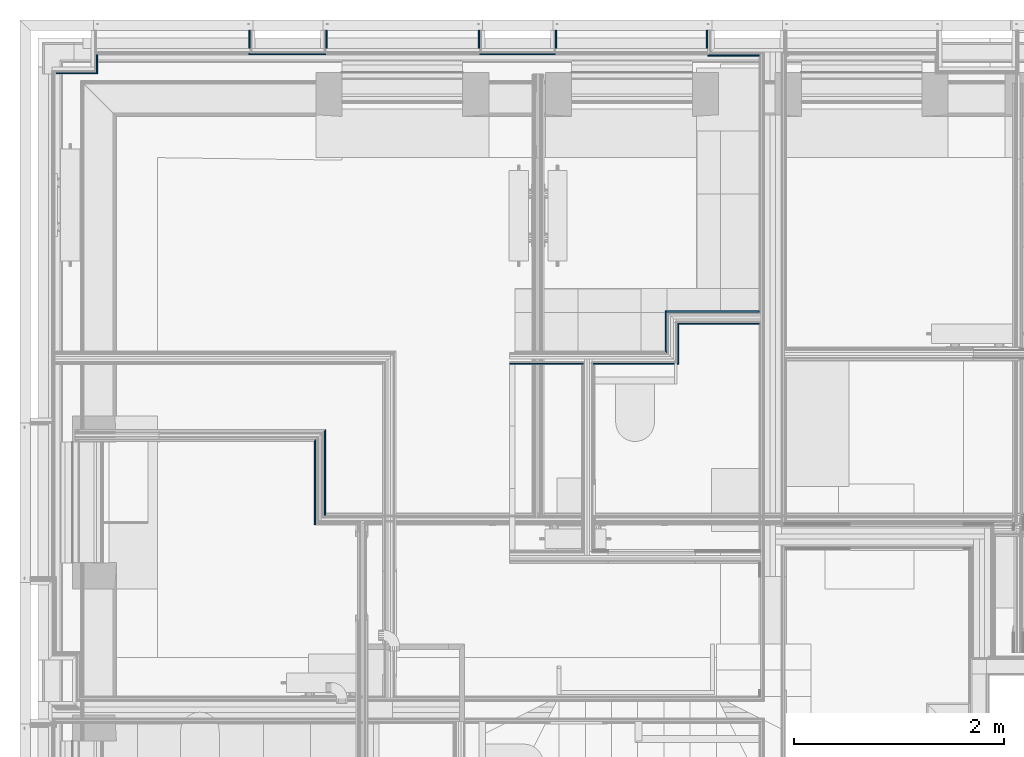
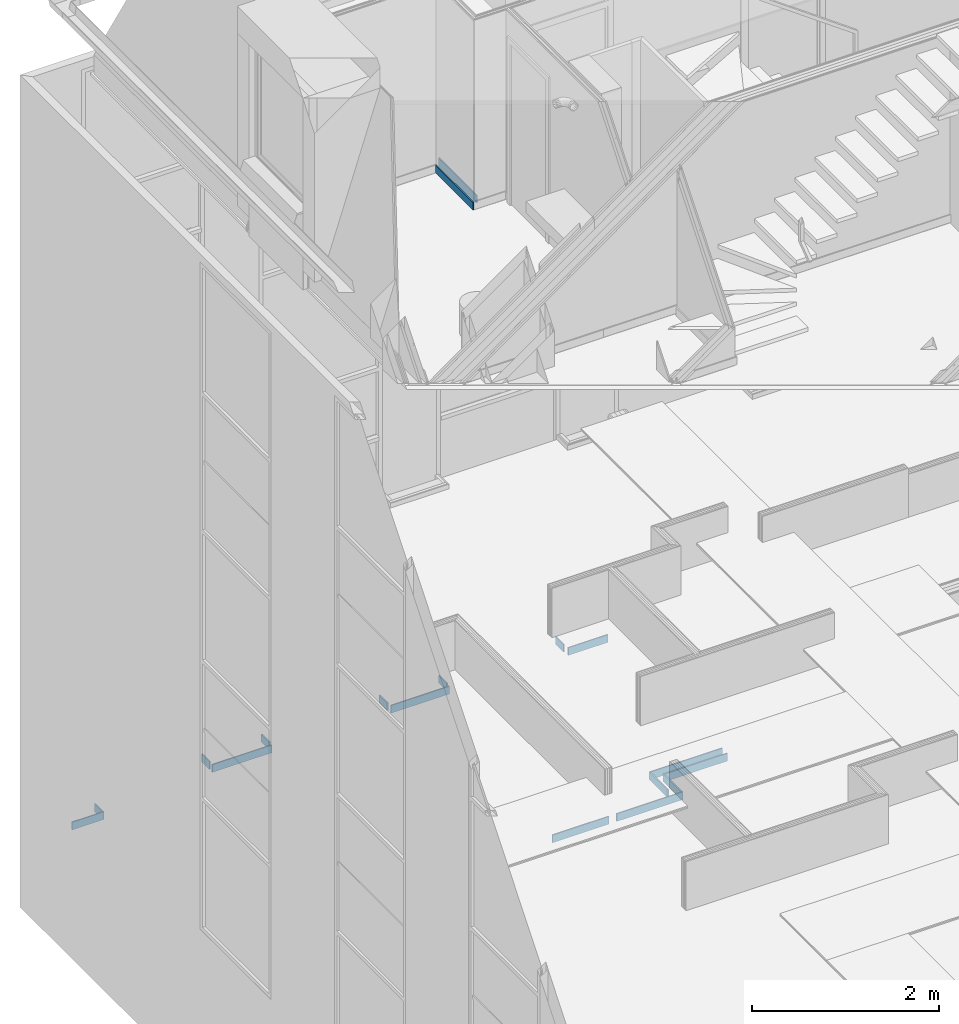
# One storey, part 58 of 169: 18 building element parts, 14 elements without a shape of their own.
"""IFC2X3 building model written with IfcOpenShell, lengths in metres."""

from ifc_helpers import new_model, entity, si_unit, converted_unit, derived_unit, money_unit, direction, frame, frame_2d, origin_with_axes, place, context, subcontext, project, spatial, polyline, rectangle, outline, extrude, material, type_object, element, aggregate, save


model = new_model("IFC2X3")

# Units and contexts
model_context = context("Model", 3, precision=1e-05, world=origin_with_axes(), true_north=direction((0.0, 1.0)))
body_context = subcontext(model_context, "Body", "Model", "MODEL_VIEW", scale=1.0)
ifc_project = project(units=[si_unit("LENGTHUNIT", "METRE"), si_unit("AREAUNIT", "SQUARE_METRE"), si_unit("VOLUMEUNIT", "CUBIC_METRE"), si_unit("ABSORBEDDOSEUNIT", "GRAY"), si_unit("AMOUNTOFSUBSTANCEUNIT", "MOLE"), si_unit("DOSEEQUIVALENTUNIT", "SIEVERT"), si_unit("ELECTRICCAPACITANCEUNIT", "FARAD"), si_unit("ELECTRICCHARGEUNIT", "COULOMB"), si_unit("ELECTRICCONDUCTANCEUNIT", "SIEMENS"), si_unit("ELECTRICCURRENTUNIT", "AMPERE"), si_unit("ELECTRICRESISTANCEUNIT", "OHM"), si_unit("ELECTRICVOLTAGEUNIT", "VOLT"), si_unit("ENERGYUNIT", "JOULE"), si_unit("FORCEUNIT", "NEWTON"), si_unit("FREQUENCYUNIT", "HERTZ"), si_unit("ILLUMINANCEUNIT", "LUX"), si_unit("INDUCTANCEUNIT", "HENRY"), si_unit("LUMINOUSFLUXUNIT", "LUMEN"), si_unit("LUMINOUSINTENSITYUNIT", "CANDELA"), si_unit("MAGNETICFLUXDENSITYUNIT", "TESLA"), si_unit("MAGNETICFLUXUNIT", "WEBER"), si_unit("MASSUNIT", "GRAM"), converted_unit("PLANEANGLEUNIT", "degree", entity("IfcReal", 0.0174532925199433), si_unit("PLANEANGLEUNIT", "RADIAN"), dimensions=[0, 0, 0, 0, 0, 0, 0]), si_unit("POWERUNIT", "WATT"), si_unit("PRESSUREUNIT", "PASCAL"), si_unit("RADIOACTIVITYUNIT", "BECQUEREL"), si_unit("SOLIDANGLEUNIT", "STERADIAN"), si_unit("THERMODYNAMICTEMPERATUREUNIT", "KELVIN"), si_unit("TIMEUNIT", "SECOND"), derived_unit("ACCELERATIONUNIT", [(si_unit("LENGTHUNIT", "METRE"), 1), (si_unit("TIMEUNIT", "SECOND"), -2)]), derived_unit("ANGULARVELOCITYUNIT", [(converted_unit("PLANEANGLEUNIT", "degree", entity("IfcReal", 0.0174532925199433), si_unit("PLANEANGLEUNIT", "RADIAN"), dimensions=[0, 0, 0, 0, 0, 0, 0]), 1), (si_unit("TIMEUNIT", "SECOND"), -1)]), derived_unit("CURVATUREUNIT", [(converted_unit("PLANEANGLEUNIT", "degree", entity("IfcReal", 0.0174532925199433), si_unit("PLANEANGLEUNIT", "RADIAN"), dimensions=[0, 0, 0, 0, 0, 0, 0]), 1), (si_unit("LENGTHUNIT", "METRE"), -1)]), derived_unit("DYNAMICVISCOSITYUNIT", [(si_unit("PRESSUREUNIT", "PASCAL"), 1), (si_unit("TIMEUNIT", "SECOND"), 1)]), derived_unit("HEATFLUXDENSITYUNIT", [(si_unit("POWERUNIT", "WATT"), 1), (si_unit("LENGTHUNIT", "METRE"), -2)]), derived_unit("HEATINGVALUEUNIT", [(si_unit("ENERGYUNIT", "JOULE"), 1), (si_unit("MASSUNIT", "GRAM"), -1)]), derived_unit("INTEGERCOUNTRATEUNIT", [(si_unit("TIMEUNIT", "SECOND"), -1)]), derived_unit("IONCONCENTRATIONUNIT", [(si_unit("MASSUNIT", "GRAM"), 1), (si_unit("VOLUMEUNIT", "CUBIC_METRE"), -1)]), derived_unit("ISOTHERMALMOISTURECAPACITYUNIT", [(si_unit("VOLUMEUNIT", "CUBIC_METRE"), 1), (si_unit("MASSUNIT", "GRAM"), -1)]), derived_unit("KINEMATICVISCOSITYUNIT", [(si_unit("AREAUNIT", "SQUARE_METRE"), 1), (si_unit("TIMEUNIT", "SECOND"), -1)]), derived_unit("LINEARFORCEUNIT", [(si_unit("FORCEUNIT", "NEWTON"), 1), (si_unit("LENGTHUNIT", "METRE"), -1)]), derived_unit("LINEARMOMENTUNIT", [(si_unit("FORCEUNIT", "NEWTON"), 1), (si_unit("LENGTHUNIT", "METRE"), -1)]), derived_unit("LINEARSTIFFNESSUNIT", [(si_unit("FORCEUNIT", "NEWTON"), 1), (si_unit("LENGTHUNIT", "METRE"), -1)]), derived_unit("LINEARVELOCITYUNIT", [(si_unit("LENGTHUNIT", "METRE"), 1), (si_unit("TIMEUNIT", "SECOND"), -1)]), derived_unit("LUMINOUSINTENSITYDISTRIBUTIONUNIT", [(si_unit("LUMINOUSINTENSITYUNIT", "CANDELA"), 1), (si_unit("LUMINOUSFLUXUNIT", "LUMEN"), -1)]), derived_unit("MASSDENSITYUNIT", [(si_unit("MASSUNIT", "GRAM"), 1), (si_unit("VOLUMEUNIT", "CUBIC_METRE"), -1)]), derived_unit("MASSFLOWRATEUNIT", [(si_unit("MASSUNIT", "GRAM"), 1), (si_unit("TIMEUNIT", "SECOND"), -1)]), derived_unit("MASSPERLENGTHUNIT", [(si_unit("MASSUNIT", "GRAM"), 1), (si_unit("LENGTHUNIT", "METRE"), -1)]), derived_unit("MODULUSOFELASTICITYUNIT", [(si_unit("FORCEUNIT", "NEWTON"), 1), (si_unit("AREAUNIT", "SQUARE_METRE"), -1)]), derived_unit("MODULUSOFLINEARSUBGRADEREACTIONUNIT", [(si_unit("FORCEUNIT", "NEWTON"), 1), (si_unit("LENGTHUNIT", "METRE"), -2)]), derived_unit("MODULUSOFROTATIONALSUBGRADEREACTIONUNIT", [(si_unit("FORCEUNIT", "NEWTON"), 1), (si_unit("LENGTHUNIT", "METRE"), 1)]), derived_unit("MODULUSOFSUBGRADEREACTIONUNIT", [(si_unit("FORCEUNIT", "NEWTON"), 1), (si_unit("VOLUMEUNIT", "CUBIC_METRE"), -1)]), derived_unit("MOISTUREDIFFUSIVITYUNIT", [(si_unit("VOLUMEUNIT", "CUBIC_METRE"), 1), (si_unit("TIMEUNIT", "SECOND"), -1)]), derived_unit("MOLECULARWEIGHTUNIT", [(si_unit("MASSUNIT", "GRAM"), 1), (si_unit("AMOUNTOFSUBSTANCEUNIT", "MOLE"), -1)]), derived_unit("PLANARFORCEUNIT", [(si_unit("FORCEUNIT", "NEWTON"), 1), (si_unit("LENGTHUNIT", "METRE"), -2)]), derived_unit("ROTATIONALFREQUENCYUNIT", [(si_unit("TIMEUNIT", "SECOND"), -1)]), derived_unit("ROTATIONALMASSUNIT", [(si_unit("MASSUNIT", "GRAM"), 1), (si_unit("LENGTHUNIT", "METRE"), 2)]), derived_unit("ROTATIONALSTIFFNESSUNIT", [(si_unit("FORCEUNIT", "NEWTON"), 1), (si_unit("LENGTHUNIT", "METRE"), 1), (converted_unit("PLANEANGLEUNIT", "degree", entity("IfcReal", 0.0174532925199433), si_unit("PLANEANGLEUNIT", "RADIAN"), dimensions=[0, 0, 0, 0, 0, 0, 0]), -1)]), derived_unit("SECTIONAREAINTEGRALUNIT", [(si_unit("LENGTHUNIT", "METRE"), 5)]), derived_unit("SECTIONMODULUSUNIT", [(si_unit("LENGTHUNIT", "METRE"), 3)]), derived_unit("SHEARMODULUSUNIT", [(si_unit("FORCEUNIT", "NEWTON"), 1), (si_unit("AREAUNIT", "SQUARE_METRE"), -1)]), derived_unit("SOUNDPOWERUNIT", [(si_unit("ENERGYUNIT", "JOULE"), 1), (si_unit("TIMEUNIT", "SECOND"), -1)]), derived_unit("SPECIFICHEATCAPACITYUNIT", [(si_unit("FORCEUNIT", "NEWTON"), 1), (si_unit("MASSUNIT", "GRAM"), -1), (si_unit("THERMODYNAMICTEMPERATUREUNIT", "KELVIN"), -1)]), derived_unit("TEMPERATUREGRADIENTUNIT", [(si_unit("THERMODYNAMICTEMPERATUREUNIT", "KELVIN"), 1), (si_unit("LENGTHUNIT", "METRE"), -1)]), derived_unit("THERMALADMITTANCEUNIT", [(si_unit("POWERUNIT", "WATT"), 1), (si_unit("AREAUNIT", "SQUARE_METRE"), -1), (si_unit("THERMODYNAMICTEMPERATUREUNIT", "KELVIN"), -1)]), derived_unit("THERMALCONDUCTANCEUNIT", [(si_unit("POWERUNIT", "WATT"), 1), (si_unit("LENGTHUNIT", "METRE"), -1), (si_unit("THERMODYNAMICTEMPERATUREUNIT", "KELVIN"), -1)]), derived_unit("THERMALEXPANSIONCOEFFICIENTUNIT", [(si_unit("THERMODYNAMICTEMPERATUREUNIT", "KELVIN"), -1)]), derived_unit("THERMALRESISTANCEUNIT", [(si_unit("AREAUNIT", "SQUARE_METRE"), 1), (si_unit("POWERUNIT", "WATT"), -1)]), derived_unit("THERMALTRANSMITTANCEUNIT", [(si_unit("POWERUNIT", "WATT"), 1), (si_unit("AREAUNIT", "SQUARE_METRE"), -1), (si_unit("THERMODYNAMICTEMPERATUREUNIT", "KELVIN"), -1)]), derived_unit("TORQUEUNIT", [(si_unit("FORCEUNIT", "NEWTON"), 1), (si_unit("LENGTHUNIT", "METRE"), 1)]), derived_unit("VAPORPERMEABILITYUNIT", [(si_unit("MASSUNIT", "GRAM"), 1), (si_unit("TIMEUNIT", "SECOND"), -1)]), derived_unit("VOLUMETRICFLOWRATEUNIT", [(si_unit("VOLUMEUNIT", "CUBIC_METRE"), 1), (si_unit("TIMEUNIT", "SECOND"), -1)]), derived_unit("WARPINGCONSTANTUNIT", [(si_unit("LENGTHUNIT", "METRE"), 6)]), derived_unit("WARPINGMOMENTUNIT", [(si_unit("FORCEUNIT", "NEWTON"), 1), (si_unit("LENGTHUNIT", "METRE"), 2)]), money_unit("GBP")], contexts=[model_context])

# Site, building, storey
site_placement = place(None, origin_with_axes())
site = spatial("IfcSite", under=ifc_project, at=site_placement, Name="Site", CompositionType="ELEMENT")
building_placement = place(site_placement, origin_with_axes())
building = spatial("IfcBuilding", under=site, at=building_placement, Name="Building01", CompositionType="ELEMENT")
storey_placement = place(building_placement, frame((0.0, 0.0, 5.15), z_axis=(0.0, 0.0, 1.0), x_axis=(1.0, 0.0, 0.0)))
storey = spatial("IfcBuildingStorey", under=building, at=storey_placement, Name="1F", CompositionType="ELEMENT", Elevation=5.15)

# Wall, building element parts
wall_type_1 = type_object("IfcWallType", Name="SHE_A-Walls_Type05a_Partition_95mm_tall", PredefinedType="NOTDEFINED")
wall_1_placement = place(storey_placement, frame((6.229669, 11.66567, 0.0), z_axis=(0.0, 0.0, 1.0), x_axis=(0.0, 1.0, 0.0)))
wall_1 = element("IfcWall", 1, at=wall_1_placement, inside=storey, type_object=wall_type_1, Name="5A", ObjectType="SHE_A-Walls_Type05a_Partition_95mm_tall")
ifc_material = material(Name="A_BSUK_Walls_Timber")
placement_1 = place(wall_1_placement, origin_with_axes())
building_element_part_1 = element("IfcBuildingElementPart", 2, at=placement_1, material=ifc_material, Name="1", context=body_context, shape_type="SweptSolid", body=[
    extrude(outline(polyline([(0.35, -0.035), (-0.035, -0.035), (-0.05, -0.05), (0.335, -0.05), (0.35, -0.035)])), frame((0.0, 0.0, 0.015), z_axis=(0.0, 0.0, 1.0), x_axis=(1.0, 0.0, 0.0)), (0.0, 0.0, 1.0), 0.1),
])
building_element_part_2 = element("IfcBuildingElementPart", 3, at=placement_1, material=ifc_material, Name="7", context=body_context, shape_type="SweptSolid", body=[
    extrude(outline(polyline([(0.46, 0.075), (0.075, 0.075), (0.06, 0.06), (0.445, 0.06), (0.46, 0.075)])), frame((0.0, 0.0, 0.015), z_axis=(0.0, 0.0, 1.0), x_axis=(1.0, 0.0, 0.0)), (0.0, 0.0, 1.0), 0.1),
])
aggregate(wall_1, [building_element_part_1, building_element_part_2])

wall_2_placement = place(storey_placement, frame((6.229669, 12.05067, 0.0), z_axis=(0.0, 0.0, 1.0), x_axis=(1.0, 0.0, 0.0)))
wall_2 = element("IfcWall", 4, at=wall_2_placement, inside=storey, type_object=wall_type_1, Name="5A", ObjectType="SHE_A-Walls_Type05a_Partition_95mm_tall")
placement_2 = place(wall_2_placement, origin_with_axes())
building_element_part_3 = element("IfcBuildingElementPart", 5, at=placement_2, material=ifc_material, Name="1", context=body_context, shape_type="SweptSolid", body=[
    extrude(outline(polyline([(0.82, -0.035), (0.035, -0.035), (0.05, -0.05), (0.82, -0.05), (0.82, -0.035)])), frame((0.0, 0.0, 0.015), z_axis=(0.0, 0.0, 1.0), x_axis=(1.0, 0.0, 0.0)), (0.0, 0.0, 1.0), 0.1),
])
building_element_part_4 = element("IfcBuildingElementPart", 6, at=placement_2, material=ifc_material, Name="7", context=body_context, shape_type="SweptSolid", body=[
    extrude(outline(polyline([(0.82, 0.075), (-0.075, 0.075), (-0.06, 0.06), (0.82, 0.06), (0.82, 0.075)])), frame((0.0, 0.0, 0.015), z_axis=(0.0, 0.0, 1.0), x_axis=(1.0, 0.0, 0.0)), (0.0, 0.0, 1.0), 0.1),
])
aggregate(wall_2, [building_element_part_3, building_element_part_4])

wall_3_placement = place(storey_placement, frame((4.669669, 11.66567, 0.0), z_axis=(0.0, 0.0, 1.0), x_axis=(1.0, 0.0, 0.0)))
wall_3 = element("IfcWall", 7, at=wall_3_placement, inside=storey, type_object=wall_type_1, Name="5A", ObjectType="SHE_A-Walls_Type05a_Partition_95mm_tall")
placement_3 = place(wall_3_placement, origin_with_axes())
building_element_part_5 = element("IfcBuildingElementPart", 8, at=placement_3, material=ifc_material, Name="1", context=body_context, shape_type="SweptSolid", body=[
    extrude(rectangle(XDim=0.7, YDim=0.015, at=frame_2d((0.35, -0.0425), x_axis=(-1.0, 0.0))), frame((0.0, 0.0, 0.015), z_axis=(0.0, 0.0, 1.0), x_axis=(1.0, 0.0, 0.0)), (0.0, 0.0, 1.0), 0.1),
])
building_element_part_6 = element("IfcBuildingElementPart", 9, at=placement_3, material=ifc_material, Name="2", context=body_context, shape_type="SweptSolid", body=[
    extrude(outline(polyline([(1.595, -0.035), (0.795, -0.035), (0.795, -0.05), (1.61, -0.05), (1.595, -0.035)])), frame((0.0, 0.0, 0.015), z_axis=(0.0, 0.0, 1.0), x_axis=(1.0, 0.0, 0.0)), (0.0, 0.0, 1.0), 0.1),
])
aggregate(wall_3, [building_element_part_5, building_element_part_6])

# Wall, building element part
wall_type_2 = type_object("IfcWallType", Name="SHE_A-Walls_Type06f_ExternalWallInsulation_48+15mm", PredefinedType="NOTDEFINED")
wall_4_placement = place(storey_placement, frame((6.605, 14.612, 0.0), z_axis=(0.0, 0.0, 1.0), x_axis=(0.0, 1.0, 0.0)))
wall_4 = element("IfcWall", 10, at=wall_4_placement, inside=storey, type_object=wall_type_2, Name="6F", ObjectType="SHE_A-Walls_Type06f_ExternalWallInsulation_48+15mm")
building_element_part_7_placement = place(wall_4_placement, origin_with_axes())
building_element_part_7 = element("IfcBuildingElementPart", 11, at=building_element_part_7_placement, material=ifc_material, Name="4", context=body_context, shape_type="SweptSolid", body=[
    extrude(rectangle(XDim=0.168993, YDim=0.015, at=frame_2d((0.103503, 0.0525), x_axis=(1.0, 0.0))), frame((0.0, 0.0, 0.015), z_axis=(0.0, 0.0, 1.0), x_axis=(1.0, 0.0, 0.0)), (0.0, 0.0, 1.0), 0.1),
])
aggregate(wall_4, [building_element_part_7])

wall_5_placement = place(storey_placement, frame((7.283, 14.612, 0.0), z_axis=(0.0, 0.0, 1.0), x_axis=(-1.0, 0.0, 0.0)))
wall_5 = element("IfcWall", 12, at=wall_5_placement, inside=storey, type_object=wall_type_2, Name="6F", ObjectType="SHE_A-Walls_Type06f_ExternalWallInsulation_48+15mm")
building_element_part_8_placement = place(wall_5_placement, origin_with_axes())
building_element_part_8 = element("IfcBuildingElementPart", 13, at=building_element_part_8_placement, material=ifc_material, Name="7", context=body_context, shape_type="SweptSolid", body=[
    extrude(rectangle(XDim=0.015, YDim=0.489793, at=frame_2d((0.478228, 0.0525), x_axis=(0.0, -1.0))), frame((0.0, 0.0, 0.015), z_axis=(0.0, 0.0, 1.0), x_axis=(1.0, 0.0, 0.0)), (0.0, 0.0, 1.0), 0.1),
])
aggregate(wall_5, [building_element_part_8])

wall_type_3 = type_object("IfcWallType", Name="SHE_A-Walls_Type06d_ExternalWallInsulation_48mm", PredefinedType="NOTDEFINED")
wall_6_placement = place(storey_placement, frame((5.093, 14.63, 0.0), z_axis=(0.0, 0.0, 1.0), x_axis=(0.0, 1.0, 0.0)))
wall_6 = element("IfcWall", 14, at=wall_6_placement, inside=storey, type_object=wall_type_3, Name="6D", ObjectType="SHE_A-Walls_Type06d_ExternalWallInsulation_48mm")
building_element_part_9_placement = place(wall_6_placement, origin_with_axes())
building_element_part_9 = element("IfcBuildingElementPart", 15, at=building_element_part_9_placement, material=ifc_material, Name="1", context=body_context, shape_type="SweptSolid", body=[
    extrude(rectangle(XDim=0.17, YDim=0.015, at=frame_2d((0.085, -0.0195), x_axis=(1.0, 0.0))), frame((0.0, 0.0, 0.015), z_axis=(0.0, 0.0, 1.0), x_axis=(1.0, 0.0, 0.0)), (0.0, 0.0, 1.0), 0.1),
])
aggregate(wall_6, [building_element_part_9])

wall_7_placement = place(storey_placement, frame((5.093, 14.63, 0.0), z_axis=(0.0, 0.0, 1.0), x_axis=(-1.0, 0.0, 0.0)))
wall_7 = element("IfcWall", 16, at=wall_7_placement, inside=storey, type_object=wall_type_3, Name="6D", ObjectType="SHE_A-Walls_Type06d_ExternalWallInsulation_48mm")
building_element_part_10_placement = place(wall_7_placement, origin_with_axes())
building_element_part_10 = element("IfcBuildingElementPart", 17, at=building_element_part_10_placement, material=ifc_material, Name="3", context=body_context, shape_type="SweptSolid", body=[
    extrude(rectangle(XDim=0.72, YDim=0.015, at=frame_2d((0.348, 0.0555), x_axis=(1.0, 0.0))), frame((0.0, 0.0, 0.015), z_axis=(0.0, 0.0, 1.0), x_axis=(1.0, 0.0, 0.0)), (0.0, 0.0, 1.0), 0.1),
])
aggregate(wall_7, [building_element_part_10])

wall_8_placement = place(storey_placement, frame((4.397, 14.63, 0.0), z_axis=(0.0, 0.0, 1.0), x_axis=(0.0, 1.0, 0.0)))
wall_8 = element("IfcWall", 18, at=wall_8_placement, inside=storey, type_object=wall_type_3, Name="6D", ObjectType="SHE_A-Walls_Type06d_ExternalWallInsulation_48mm")
building_element_part_11_placement = place(wall_8_placement, origin_with_axes())
building_element_part_11 = element("IfcBuildingElementPart", 19, at=building_element_part_11_placement, material=ifc_material, Name="3", context=body_context, shape_type="SweptSolid", body=[
    extrude(rectangle(XDim=0.17, YDim=0.015, at=frame_2d((0.085, 0.0195), x_axis=(1.0, 0.0))), frame((0.0, 0.0, 0.015), z_axis=(0.0, 0.0, 1.0), x_axis=(1.0, 0.0, 0.0)), (0.0, 0.0, 1.0), 0.1),
])
aggregate(wall_8, [building_element_part_11])

wall_9_placement = place(storey_placement, frame((2.903, 14.63, 0.0), z_axis=(0.0, 0.0, 1.0), x_axis=(0.0, 1.0, 0.0)))
wall_9 = element("IfcWall", 20, at=wall_9_placement, inside=storey, type_object=wall_type_3, Name="6D", ObjectType="SHE_A-Walls_Type06d_ExternalWallInsulation_48mm")
building_element_part_12_placement = place(wall_9_placement, origin_with_axes())
building_element_part_12 = element("IfcBuildingElementPart", 21, at=building_element_part_12_placement, material=ifc_material, Name="1", context=body_context, shape_type="SweptSolid", body=[
    extrude(rectangle(XDim=0.17, YDim=0.015, at=frame_2d((0.085, -0.0195), x_axis=(1.0, 0.0))), frame((0.0, 0.0, 0.015), z_axis=(0.0, 0.0, 1.0), x_axis=(1.0, 0.0, 0.0)), (0.0, 0.0, 1.0), 0.1),
])
aggregate(wall_9, [building_element_part_12])

wall_10_placement = place(storey_placement, frame((2.903, 14.63, 0.0), z_axis=(0.0, 0.0, 1.0), x_axis=(-1.0, 0.0, 0.0)))
wall_10 = element("IfcWall", 22, at=wall_10_placement, inside=storey, type_object=wall_type_3, Name="6D", ObjectType="SHE_A-Walls_Type06d_ExternalWallInsulation_48mm")
building_element_part_13_placement = place(wall_10_placement, origin_with_axes())
building_element_part_13 = element("IfcBuildingElementPart", 23, at=building_element_part_13_placement, material=ifc_material, Name="3", context=body_context, shape_type="SweptSolid", body=[
    extrude(rectangle(XDim=0.735, YDim=0.015, at=frame_2d((0.3555, 0.0555), x_axis=(1.0, 0.0))), frame((0.0, 0.0, 0.015), z_axis=(0.0, 0.0, 1.0), x_axis=(1.0, 0.0, 0.0)), (0.0, 0.0, 1.0), 0.1),
])
aggregate(wall_10, [building_element_part_13])

wall_11_placement = place(storey_placement, frame((2.207, 14.63, 0.0), z_axis=(0.0, 0.0, 1.0), x_axis=(0.0, 1.0, 0.0)))
wall_11 = element("IfcWall", 24, at=wall_11_placement, inside=storey, type_object=wall_type_3, Name="6D", ObjectType="SHE_A-Walls_Type06d_ExternalWallInsulation_48mm")
building_element_part_14_placement = place(wall_11_placement, origin_with_axes())
building_element_part_14 = element("IfcBuildingElementPart", 25, at=building_element_part_14_placement, material=ifc_material, Name="3", context=body_context, shape_type="SweptSolid", body=[
    extrude(rectangle(XDim=0.169655, YDim=0.015, at=frame_2d((0.085172, 0.0195), x_axis=(1.0, 0.0))), frame((0.0, 0.0, 0.015), z_axis=(0.0, 0.0, 1.0), x_axis=(1.0, 0.0, 0.0)), (0.0, 0.0, 1.0), 0.1),
])
aggregate(wall_11, [building_element_part_14])

wall_12_placement = place(storey_placement, frame((0.677, 14.800002, 0.0), z_axis=(0.0, 0.0, 1.0), x_axis=(0.0, -1.0, 0.0)))
wall_12 = element("IfcWall", 26, at=wall_12_placement, inside=storey, type_object=wall_type_3, Name="6D", ObjectType="SHE_A-Walls_Type06d_ExternalWallInsulation_48mm")
building_element_part_15_placement = place(wall_12_placement, origin_with_axes())
building_element_part_15 = element("IfcBuildingElementPart", 27, at=building_element_part_15_placement, material=ifc_material, Name="3", context=body_context, shape_type="SweptSolid", body=[
    extrude(outline(polyline([(0.413002, 0.063), (0.233002, 0.063), (0.233002, 0.048), (0.398002, 0.048), (0.413002, 0.063)])), frame((0.0, 0.0, 0.015), z_axis=(0.0, 0.0, 1.0), x_axis=(1.0, 0.0, 0.0)), (0.0, 0.0, 1.0), 0.1),
])
aggregate(wall_12, [building_element_part_15])

wall_13_placement = place(storey_placement, frame((0.713, 14.45, 0.0), z_axis=(0.0, 0.0, 1.0), x_axis=(-1.0, 0.0, 0.0)))
wall_13 = element("IfcWall", 28, at=wall_13_placement, inside=storey, type_object=wall_type_3, Name="6D", ObjectType="SHE_A-Walls_Type06d_ExternalWallInsulation_48mm")
building_element_part_16_placement = place(wall_13_placement, origin_with_axes())
building_element_part_16 = element("IfcBuildingElementPart", 29, at=building_element_part_16_placement, material=ifc_material, Name="3", context=body_context, shape_type="SweptSolid", body=[
    extrude(outline(polyline([(0.365, 0.063), (-0.027, 0.063), (-0.012, 0.048), (0.365, 0.048), (0.365, 0.063)])), frame((0.0, 0.0, 0.015), z_axis=(0.0, 0.0, 1.0), x_axis=(1.0, 0.0, 0.0)), (0.0, 0.0, 1.0), 0.1),
])
aggregate(wall_13, [building_element_part_16])

# Wall, building element parts
wall_type_4 = type_object("IfcWallType", Name="SHE_A-Walls_Type05b_Partition_80mm", PredefinedType="NOTDEFINED")
wall_14_placement = place(storey_placement, frame((2.872, 10.126939, 9.83), z_axis=(0.0, 0.0, 1.0), x_axis=(0.0, 1.0, 0.0)))
wall_14 = element("IfcWall", 30, at=wall_14_placement, inside=storey, type_object=wall_type_4, Name="5B", ObjectType="SHE_A-Walls_Type05b_Partition_80mm")
placement_4 = place(wall_14_placement, origin_with_axes())
building_element_part_17 = element("IfcBuildingElementPart", 31, at=placement_4, material=ifc_material, Name="1", context=body_context, shape_type="SweptSolid", body=[
    extrude(outline(polyline([(0.852976, -0.028), (0.053, -0.028), (0.053, -0.043), (0.867976, -0.043), (0.852976, -0.028)])), frame((0.0, 0.0, 0.015), z_axis=(0.0, 0.0, 1.0), x_axis=(1.0, 0.0, 0.0)), (0.0, 0.0, 1.0), 0.1),
])
building_element_part_18 = element("IfcBuildingElementPart", 32, at=placement_4, material=ifc_material, Name="7", context=body_context, shape_type="SweptSolid", body=[
    extrude(outline(polyline([(0.757976, 0.067), (-0.042, 0.067), (-0.042, 0.052), (0.772976, 0.052), (0.757976, 0.067)])), frame((0.0, 0.0, 0.015), z_axis=(0.0, 0.0, 1.0), x_axis=(1.0, 0.0, 0.0)), (0.0, 0.0, 1.0), 0.1),
])
aggregate(wall_14, [building_element_part_17, building_element_part_18])

save(model, "model.ifc")
